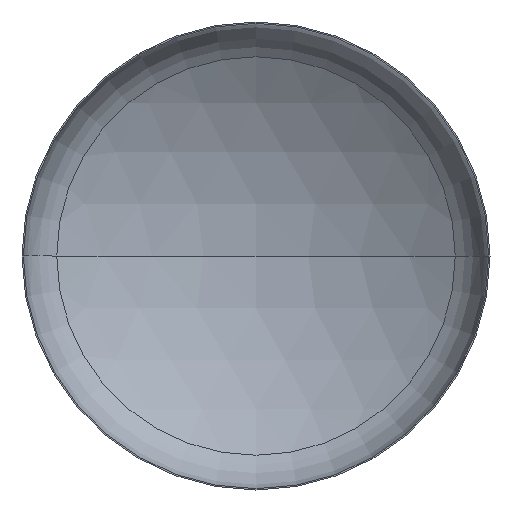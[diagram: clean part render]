
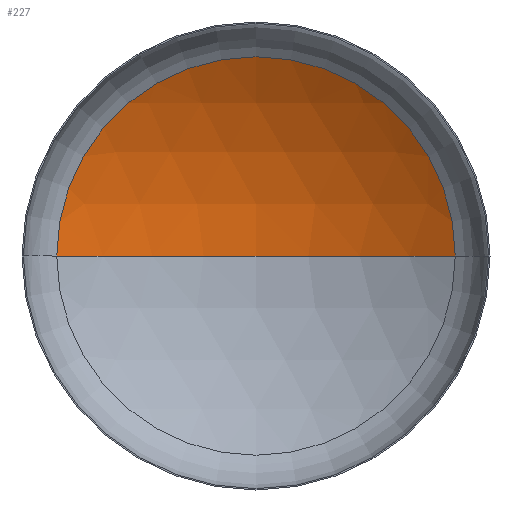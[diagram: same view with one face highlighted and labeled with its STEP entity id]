
A CAD part, front view. The second image highlights one B-rep face of the part: STEP entity #227.
In plain terms, the highlighted spherical face has radius 1440 mm.
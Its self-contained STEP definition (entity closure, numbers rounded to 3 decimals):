
#3 = ORIENTED_EDGE ( 'NONE', *, *, #138, .F. ) ;
#18 = EDGE_LOOP ( 'NONE', ( #3, #110, #134 ) ) ;
#35 = AXIS2_PLACEMENT_3D ( 'NONE', #219, #196, #401 ) ;
#48 = DIRECTION ( 'NONE',  ( 1., 0., 0. ) ) ;
#58 = AXIS2_PLACEMENT_3D ( 'NONE', #403, #270, #48 ) ;
#60 = AXIS2_PLACEMENT_3D ( 'NONE', #321, #365, #224 ) ;
#66 = AXIS2_PLACEMENT_3D ( 'NONE', #175, #335, #200 ) ;
#71 = VERTEX_POINT ( 'NONE', #211 ) ;
#110 = ORIENTED_EDGE ( 'NONE', *, *, #136, .T. ) ;
#111 = VERTEX_POINT ( 'NONE', #286 ) ;
#133 = EDGE_CURVE ( 'NONE', #251, #71, #395, .T. ) ;
#134 = ORIENTED_EDGE ( 'NONE', *, *, #133, .T. ) ;
#136 = EDGE_CURVE ( 'NONE', #111, #251, #336, .T. ) ;
#138 = EDGE_CURVE ( 'NONE', #111, #71, #158, .T. ) ;
#158 = CIRCLE ( 'NONE', #58, 1440. ) ;
#175 = CARTESIAN_POINT ( 'NONE',  ( 0., 252.822, 0. ) ) ;
#196 = DIRECTION ( 'NONE',  ( 0., 0., -1. ) ) ;
#200 = DIRECTION ( 'NONE',  ( 1., 0., 0. ) ) ;
#210 = SPHERICAL_SURFACE ( 'NONE', #35, 1440. ) ;
#211 = CARTESIAN_POINT ( 'NONE',  ( -766.352, 252.822, 0. ) ) ;
#219 = CARTESIAN_POINT ( 'NONE',  ( 0., -966.319, 0. ) ) ;
#224 = DIRECTION ( 'NONE',  ( -1., 0., 0. ) ) ;
#227 = ADVANCED_FACE ( 'NONE', ( #266 ), #210, .F. ) ;
#247 = CARTESIAN_POINT ( 'NONE',  ( 766.352, 252.822, 0. ) ) ;
#251 = VERTEX_POINT ( 'NONE', #247 ) ;
#266 = FACE_OUTER_BOUND ( 'NONE', #18, .T. ) ;
#270 = DIRECTION ( 'NONE',  ( 0., 0., 1. ) ) ;
#286 = CARTESIAN_POINT ( 'NONE',  ( 0., 473.681, 0. ) ) ;
#321 = CARTESIAN_POINT ( 'NONE',  ( 0., -966.319, 0. ) ) ;
#335 = DIRECTION ( 'NONE',  ( 0., -1., 0. ) ) ;
#336 = CIRCLE ( 'NONE', #60, 1440. ) ;
#365 = DIRECTION ( 'NONE',  ( 0., 0., -1. ) ) ;
#395 = CIRCLE ( 'NONE', #66, 766.352 ) ;
#401 = DIRECTION ( 'NONE',  ( -1., 0., 0. ) ) ;
#403 = CARTESIAN_POINT ( 'NONE',  ( 0., -966.319, 0. ) ) ;
